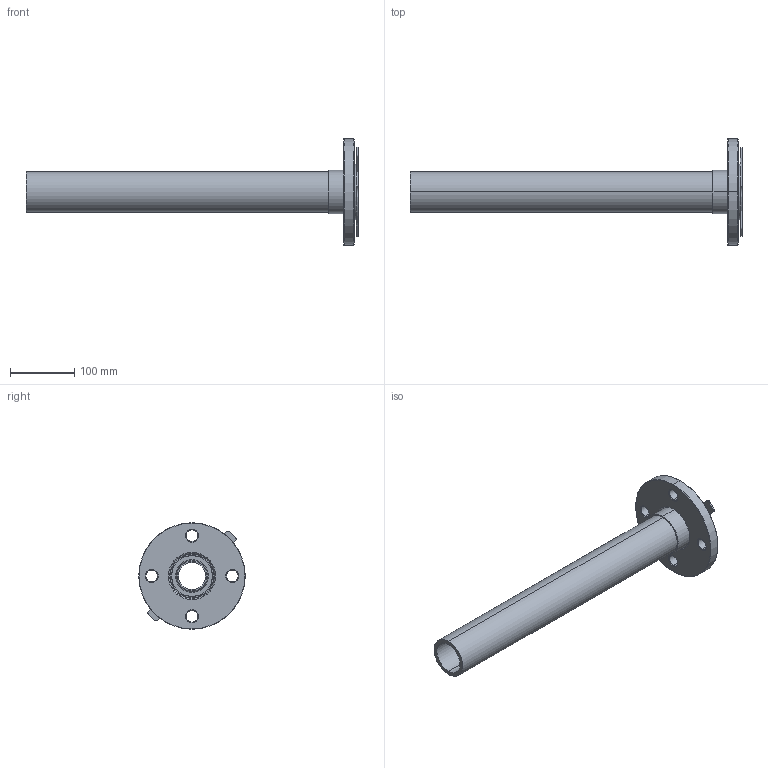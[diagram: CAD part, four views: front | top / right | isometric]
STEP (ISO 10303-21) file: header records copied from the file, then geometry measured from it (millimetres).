
FILE_DESCRIPTION (( 'STEP AP203' ), '1' );
FILE_NAME ('KP_C20-63L.STEP', '2012-01-18T14:21:25', ( '' ), ( '' ), 'SwSTEP 2.0', 'SolidWorks 2012', '' );
FILE_SCHEMA (( 'CONFIG_CONTROL_DESIGN' ));
Length unit declared in the file: millimetre
Products named in the file (1): KP_C20-63L
Bounding box: 515 x 165 x 165 mm (x, y, z)
Volume: 890851.9 mm3; surface area: 268554.8 mm2
Topology: 1 solids, 1 shells, 103 faces, 235 edges, 146 vertices
Faces by surface type: cylinder 47, cone 22, plane 22, torus 12
Entity records: 3036 total; most frequent: DIRECTION 589, CARTESIAN_POINT 485, ORIENTED_EDGE 470, AXIS2_PLACEMENT_3D 250, EDGE_CURVE 235, VERTEX_POINT 146, CIRCLE 146, EDGE_LOOP 125
